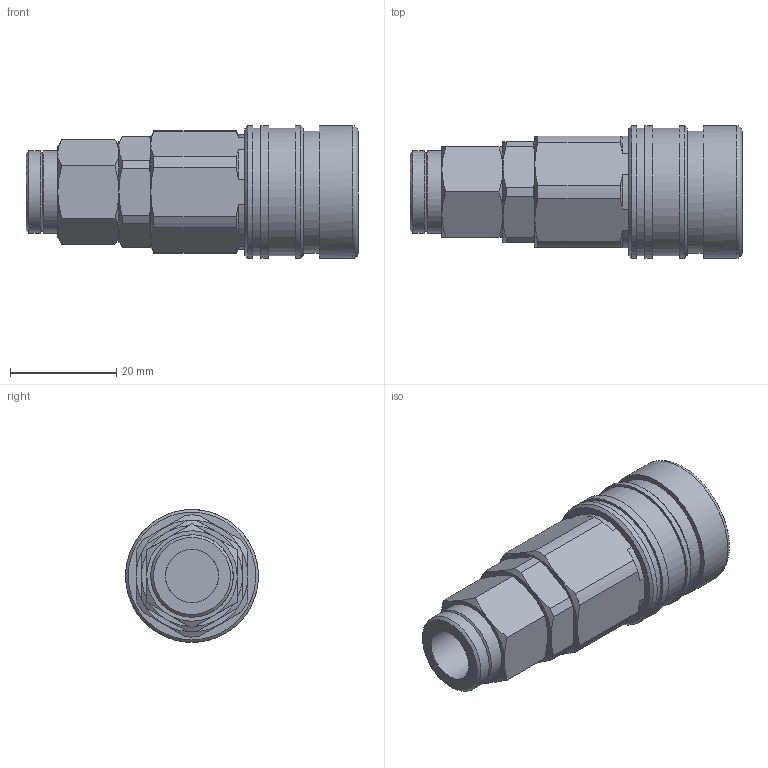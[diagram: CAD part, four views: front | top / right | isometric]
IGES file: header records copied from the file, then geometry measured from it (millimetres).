
Global section: file name: [02] CHS-6.5H-MP; native system: Autodesk Inventor 2014; preprocessor: unknown; author: kazuhiro.t; date: 20130805.154317; units: millimetre
Bounding box: 62.5 x 24.98 x 25 mm (x, y, z)
Volume: 19046.8 mm3; surface area: 6587 mm2
Topology: 1 solids, 1 shells, 103 faces, 243 edges, 154 vertices
Faces by surface type: bspline 103
